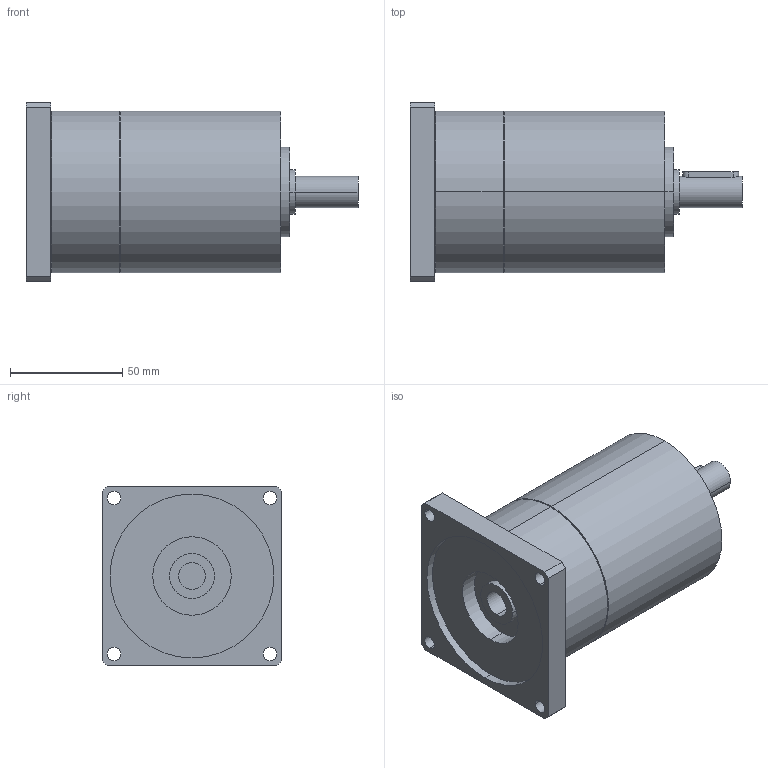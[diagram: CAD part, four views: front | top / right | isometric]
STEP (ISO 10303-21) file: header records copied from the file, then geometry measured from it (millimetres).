
FILE_DESCRIPTION(('CoCreate Modeling STEP Export'),'2;1');
FILE_NAME('GPT75_ig-9-12-16-20-25-28-35-40-50-70-100_14_B14T_12_P06.stp','2014-08-27T13:16:11',(''),(''),'CoCreate Modeling STEP processor for AP214 (Solid Model)','CoCreate Modeling 16.00C 25-Feb-2009 (C) Parametric Technology GmbH','');
FILE_SCHEMA(('AUTOMOTIVE_DESIGN { 1 0 10303 214 1 1 1 1 }'));
Length unit declared in the file: millimetre
Products named in the file (2): GPT75_ig-9-12-16-20-25-28-35-40-50-70-100_14_B14T_12_P06
Assembly tree (1 placements, depth 2):
  GPT75_ig-9-12-16-20-25-28-35-40-50-70-100_14_B14T_12_P06
    GPT75_ig-9-12-16-20-25-28-35-40-50-70-100_14_B14T_12_P06
Bounding box: 148 x 80 x 80 mm (x, y, z)
Volume: 471285.1 mm3; surface area: 46239.2 mm2
Topology: 1 solids, 1 shells, 69 faces, 166 edges, 113 vertices
Faces by surface type: cylinder 42, plane 23, cone 4
Entity records: 2161 total; most frequent: CARTESIAN_POINT 664, ORIENTED_EDGE 332, DIRECTION 262, EDGE_CURVE 166, VERTEX_POINT 113, AXIS2_PLACEMENT_3D 99, EDGE_LOOP 91, FACE_OUTER_BOUND 69
